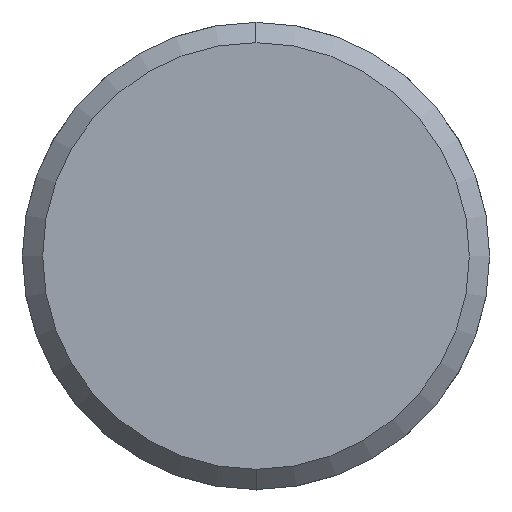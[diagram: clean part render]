
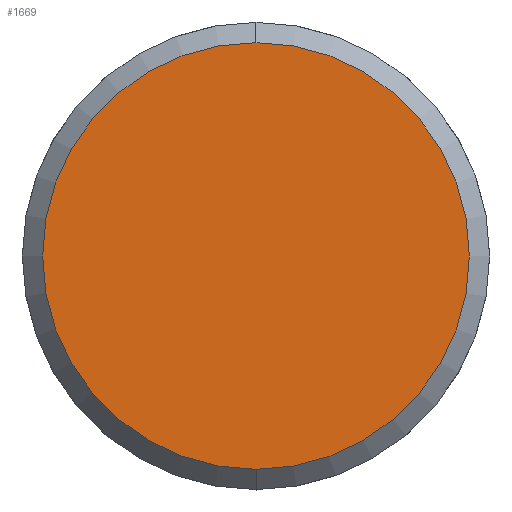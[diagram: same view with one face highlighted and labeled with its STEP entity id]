
A CAD part, left-side view. The second image highlights one B-rep face of the part: STEP entity #1669.
In plain terms, the highlighted planar face has unit normal (-1, 0, 0).
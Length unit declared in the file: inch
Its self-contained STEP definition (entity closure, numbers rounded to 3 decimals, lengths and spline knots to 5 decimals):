
#32 = DIRECTION ( 'NONE',  ( 0., 0., 1. ) ) ;
#34 = DIRECTION ( 'NONE',  ( -1., 0., 0. ) ) ;
#35 = CARTESIAN_POINT ( 'NONE',  ( -3.30926, 0.3368, 0. ) ) ;
#46 = PLANE ( 'NONE',  #918 ) ;
#489 = CARTESIAN_POINT ( 'NONE',  ( -3.30926, 0.8613, 0.658 ) ) ;
#496 = CARTESIAN_POINT ( 'NONE',  ( -3.30926, 0.8613, -0.658 ) ) ;
#712 = FACE_OUTER_BOUND ( 'NONE', #1594, .T. ) ;
#887 = AXIS2_PLACEMENT_3D ( 'NONE', #1078, #1074, #1061 ) ;
#894 = AXIS2_PLACEMENT_3D ( 'NONE', #1010, #1009, #1008 ) ;
#898 = EDGE_CURVE ( 'NONE', #1650, #1613, #1351, .T. ) ;
#918 = AXIS2_PLACEMENT_3D ( 'NONE', #35, #34, #32 ) ;
#920 = EDGE_CURVE ( 'NONE', #1613, #1650, #1313, .T. ) ;
#1008 = DIRECTION ( 'NONE',  ( 0., 0., -1. ) ) ;
#1009 = DIRECTION ( 'NONE',  ( 1., 0., 0. ) ) ;
#1010 = CARTESIAN_POINT ( 'NONE',  ( -3.30926, 0.8613, 0. ) ) ;
#1061 = DIRECTION ( 'NONE',  ( 0., 0., -1. ) ) ;
#1074 = DIRECTION ( 'NONE',  ( 1., 0., 0. ) ) ;
#1078 = CARTESIAN_POINT ( 'NONE',  ( -3.30926, 0.8613, 0. ) ) ;
#1313 = CIRCLE ( 'NONE', #887, 0.658 ) ;
#1351 = CIRCLE ( 'NONE', #894, 0.658 ) ;
#1492 = ORIENTED_EDGE ( 'NONE', *, *, #920, .F. ) ;
#1594 = EDGE_LOOP ( 'NONE', ( #1492, #1630 ) ) ;
#1613 = VERTEX_POINT ( 'NONE', #496 ) ;
#1630 = ORIENTED_EDGE ( 'NONE', *, *, #898, .F. ) ;
#1650 = VERTEX_POINT ( 'NONE', #489 ) ;
#1669 = ADVANCED_FACE ( 'NONE', ( #712 ), #46, .T. ) ;
